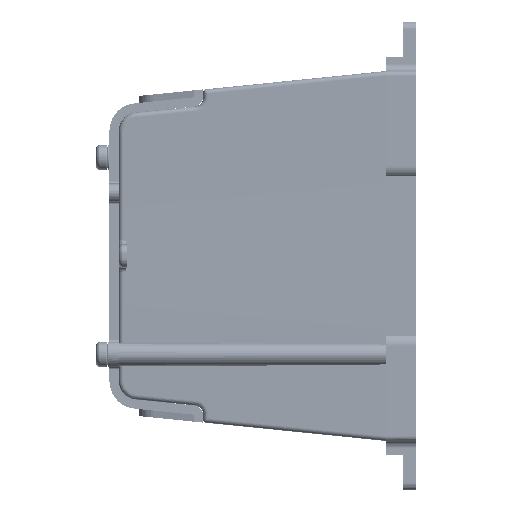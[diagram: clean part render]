
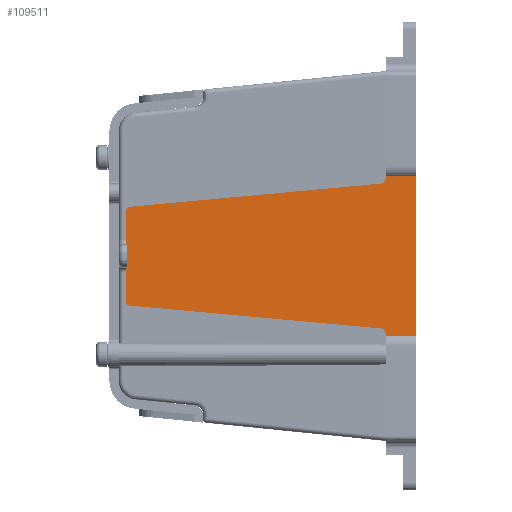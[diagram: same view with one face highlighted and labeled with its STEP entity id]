
A CAD part, left-side view. The second image highlights one B-rep face of the part: STEP entity #109511.
In plain terms, the highlighted planar face has unit normal (-1, 0, 0).
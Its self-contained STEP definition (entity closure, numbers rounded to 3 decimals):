
#7774=LINE('',#162575,#14283);
#8817=LINE('',#165846,#15326);
#8832=LINE('',#165932,#15341);
#8838=LINE('',#165946,#15347);
#8842=LINE('',#165954,#15351);
#8877=LINE('',#166104,#15386);
#8881=LINE('',#166116,#15390);
#8883=LINE('',#166124,#15392);
#9346=LINE('',#168076,#15855);
#9351=LINE('',#168093,#15860);
#9354=LINE('',#168102,#15863);
#9355=LINE('',#168104,#15864);
#14283=VECTOR('',#132855,1000.);
#15326=VECTOR('',#135924,1000.);
#15341=VECTOR('',#135975,1000.);
#15347=VECTOR('',#135985,1000.);
#15351=VECTOR('',#135991,1000.);
#15386=VECTOR('',#136102,1000.);
#15390=VECTOR('',#136114,1000.);
#15392=VECTOR('',#136124,1000.);
#15855=VECTOR('',#137655,1000.);
#15860=VECTOR('',#137670,1000.);
#15863=VECTOR('',#137681,1000.);
#15864=VECTOR('',#137682,1000.);
#18766=PLANE('',#117186);
#37493=ORIENTED_EDGE('',*,*,#51778,.F.);
#37494=ORIENTED_EDGE('',*,*,#50929,.F.);
#37495=ORIENTED_EDGE('',*,*,#49442,.F.);
#37496=ORIENTED_EDGE('',*,*,#51027,.F.);
#37497=ORIENTED_EDGE('',*,*,#51029,.F.);
#37498=ORIENTED_EDGE('',*,*,#51033,.F.);
#37499=ORIENTED_EDGE('',*,*,#51035,.F.);
#37500=ORIENTED_EDGE('',*,*,#51037,.F.);
#37501=ORIENTED_EDGE('',*,*,#50967,.F.);
#37502=ORIENTED_EDGE('',*,*,#50956,.F.);
#37503=ORIENTED_EDGE('',*,*,#50963,.T.);
#37504=ORIENTED_EDGE('',*,*,#51765,.F.);
#37505=ORIENTED_EDGE('',*,*,#51770,.F.);
#37506=ORIENTED_EDGE('',*,*,#51773,.F.);
#37507=ORIENTED_EDGE('',*,*,#51776,.F.);
#37508=ORIENTED_EDGE('',*,*,#51779,.F.);
#49442=EDGE_CURVE('',#66834,#66832,#7774,.T.);
#50929=EDGE_CURVE('',#66832,#67672,#8817,.T.);
#50956=EDGE_CURVE('',#67689,#67690,#8832,.T.);
#50963=EDGE_CURVE('',#67689,#67694,#8838,.T.);
#50967=EDGE_CURVE('',#67690,#67696,#8842,.T.);
#51027=EDGE_CURVE('',#67745,#66834,#8877,.T.);
#51029=EDGE_CURVE('',#67747,#67745,#56247,.T.);
#51033=EDGE_CURVE('',#67749,#67747,#8881,.T.);
#51035=EDGE_CURVE('',#67751,#67749,#56248,.T.);
#51037=EDGE_CURVE('',#67696,#67751,#8883,.T.);
#51765=EDGE_CURVE('',#68111,#67694,#9346,.T.);
#51770=EDGE_CURVE('',#68115,#68111,#56355,.T.);
#51773=EDGE_CURVE('',#68117,#68115,#9351,.T.);
#51776=EDGE_CURVE('',#68119,#68117,#56356,.T.);
#51778=EDGE_CURVE('',#67672,#68120,#9354,.T.);
#51779=EDGE_CURVE('',#68120,#68119,#9355,.T.);
#56247=CIRCLE('',#116637,1.5);
#56248=CIRCLE('',#116641,1.);
#56355=CIRCLE('',#117180,1.);
#56356=CIRCLE('',#117184,1.5);
#60942=EDGE_LOOP('',(#37493,#37494,#37495,#37496,#37497,#37498,#37499,#37500,
#37501,#37502,#37503,#37504,#37505,#37506,#37507,#37508));
#66832=VERTEX_POINT('',#162570);
#66834=VERTEX_POINT('',#162574);
#67672=VERTEX_POINT('',#165847);
#67689=VERTEX_POINT('',#165933);
#67690=VERTEX_POINT('',#165934);
#67694=VERTEX_POINT('',#165945);
#67696=VERTEX_POINT('',#165950);
#67745=VERTEX_POINT('',#166103);
#67747=VERTEX_POINT('',#166108);
#67749=VERTEX_POINT('',#166115);
#67751=VERTEX_POINT('',#166120);
#68111=VERTEX_POINT('',#168077);
#68115=VERTEX_POINT('',#168086);
#68117=VERTEX_POINT('',#168092);
#68119=VERTEX_POINT('',#168098);
#68120=VERTEX_POINT('',#168103);
#73662=FACE_BOUND('',#60942,.T.);
#109511=ADVANCED_FACE('',(#73662),#18766,.F.);
#116637=AXIS2_PLACEMENT_3D('',#166109,#136106,#136107);
#116641=AXIS2_PLACEMENT_3D('',#166121,#136118,#136119);
#117180=AXIS2_PLACEMENT_3D('',#168087,#137663,#137664);
#117184=AXIS2_PLACEMENT_3D('',#168099,#137675,#137676);
#117186=AXIS2_PLACEMENT_3D('',#168101,#137679,#137680);
#132855=DIRECTION('',(0.,-1.,0.));
#135924=DIRECTION('',(0.,0.,-1.));
#135975=DIRECTION('',(0.,0.,1.));
#135985=DIRECTION('',(0.,1.,0.));
#135991=DIRECTION('',(0.,1.,0.));
#136102=DIRECTION('',(0.,0.,1.));
#136106=DIRECTION('',(-1.,0.,0.));
#136107=DIRECTION('',(0.,1.,0.));
#136114=DIRECTION('',(0.,-0.996,0.092));
#136118=DIRECTION('',(1.,0.,0.));
#136119=DIRECTION('',(0.,1.,0.));
#136124=DIRECTION('',(0.,0.,1.));
#137655=DIRECTION('',(0.,0.,1.));
#137663=DIRECTION('',(1.,0.,0.));
#137664=DIRECTION('',(0.,-1.,0.));
#137670=DIRECTION('',(0.,0.996,0.09));
#137675=DIRECTION('',(-1.,0.,0.));
#137676=DIRECTION('',(0.,1.,0.));
#137679=DIRECTION('',(1.,0.,0.));
#137680=DIRECTION('',(0.,0.,-1.));
#137681=DIRECTION('',(0.,1.,0.));
#137682=DIRECTION('',(0.,0.,1.));
#162570=CARTESIAN_POINT('',(35.475,0.,17.2));
#162574=CARTESIAN_POINT('',(35.475,6.5,17.2));
#162575=CARTESIAN_POINT('',(35.475,0.,17.2));
#165846=CARTESIAN_POINT('',(35.475,0.,-17.2));
#165847=CARTESIAN_POINT('',(35.475,0.,-17.2));
#165932=CARTESIAN_POINT('',(35.475,62.6,-9.723));
#165933=CARTESIAN_POINT('',(35.475,62.6,-2.5));
#165934=CARTESIAN_POINT('',(35.475,62.6,2.5));
#165945=CARTESIAN_POINT('',(35.475,62.8,-2.5));
#165946=CARTESIAN_POINT('',(35.475,62.6,-2.5));
#165950=CARTESIAN_POINT('',(35.475,62.8,2.5));
#165954=CARTESIAN_POINT('',(35.475,62.6,2.5));
#166103=CARTESIAN_POINT('',(35.475,6.5,17.118));
#166104=CARTESIAN_POINT('',(35.475,6.5,17.118));
#166108=CARTESIAN_POINT('',(35.475,7.862,15.624));
#166109=CARTESIAN_POINT('',(35.475,8.,17.118));
#166115=CARTESIAN_POINT('',(35.475,61.892,10.647));
#166116=CARTESIAN_POINT('',(35.475,7.862,15.624));
#166120=CARTESIAN_POINT('',(35.475,62.8,9.651));
#166121=CARTESIAN_POINT('',(35.475,61.8,9.651));
#166124=CARTESIAN_POINT('',(35.475,62.8,-9.723));
#168076=CARTESIAN_POINT('',(35.475,62.8,-9.723));
#168077=CARTESIAN_POINT('',(35.475,62.8,-9.723));
#168086=CARTESIAN_POINT('',(35.475,61.89,-10.719));
#168087=CARTESIAN_POINT('',(35.475,61.8,-9.723));
#168092=CARTESIAN_POINT('',(35.475,7.864,-15.626));
#168093=CARTESIAN_POINT('',(35.475,7.864,-15.626));
#168098=CARTESIAN_POINT('',(35.475,6.5,-17.12));
#168099=CARTESIAN_POINT('',(35.475,8.,-17.12));
#168101=CARTESIAN_POINT('',(35.475,61.8,-9.723));
#168102=CARTESIAN_POINT('',(35.475,0.,-17.2));
#168103=CARTESIAN_POINT('',(35.475,6.5,-17.2));
#168104=CARTESIAN_POINT('',(35.475,6.5,-17.12));
